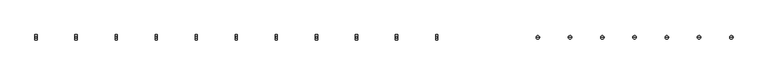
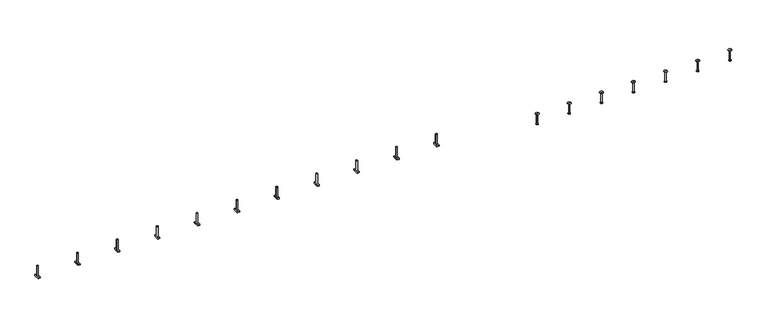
"""IFC4 building model written with IfcOpenShell, lengths in millimetres: fastener geometry, JTA-W JORDAHL® AnchorChannels : JTA-W L=6000 mm."""

from ifc_helpers import new_model, si_unit, frame, origin, place, context, project, spatial, polyline, circle_curve, source, transform, mapped, element, save
from ifc_brep_helpers import plane_surface, cylinder_surface, revolved_surface, advanced_brep


def fastener_219282b4(model_context):
    return source(origin(), model_context, "Body", "AdvancedBrep", [
        advanced_brep(
        [(3470.3421053, -20.7, -4.0), (3470.3421053, -20.7, -14.0), (3470.3421053, 20.7, -14.0), (3470.3421053, 20.7, -4.0), (3453.3421053, -20.7, -4.0), (3453.3421053, 20.7, -4.0), (3453.3421053, 20.7, -14.0), (3453.3421053, -20.7, -14.0), (3467.8421053, 0.0, -4.0), (3455.8421053, 0.0, -4.0), (3455.8421053, 0.0, 76.0), (3467.8421053, 0.0, 76.0)],
        [
            (0, 1),
            (1, 2),
            (2, 3),
            (3, 0),
            (4, 5),
            (5, 6),
            (6, 7),
            (7, 4),
            (3, 5),
            (4, 0),
            (8, 9, circle_curve(frame((3461.8421053, 0.0, -4.0), z_axis=(0.0, 0.0, -1.0), x_axis=(1.0, 0.0, 0.0)), 6.0)),
            (9, 8, circle_curve(frame((3461.8421053, 0.0, -4.0), z_axis=(0.0, 0.0, -1.0), x_axis=(1.0, 0.0, 0.0)), 6.0)),
            (2, 6),
            (1, 7),
            (10, 11, circle_curve(frame((3461.8421053, 0.0, 76.0), z_axis=(0.0, 0.0, 1.0), x_axis=(1.0, 0.0, 0.0)), 6.0)),
            (11, 10, circle_curve(frame((3461.8421053, 0.0, 76.0), z_axis=(0.0, 0.0, 1.0), x_axis=(1.0, 0.0, 0.0)), 6.0)),
            (11, 8),
            (9, 10),
        ],
        [
            plane_surface(frame((3470.3421053, 20.7, -4.0), z_axis=(1.0, 0.0, 0.0), x_axis=(0.0, 1.0, 0.0))),
            plane_surface(frame((3453.3421053, 20.7, -4.0), z_axis=(-1.0, 0.0, 0.0), x_axis=(0.0, -1.0, 0.0))),
            plane_surface(frame((3470.3421053, -20.7, -4.0), z_axis=(0.0, 0.0, 1.0), x_axis=(-1.0, 0.0, 0.0))),
            plane_surface(frame((3470.3421053, 20.7, -4.0), z_axis=(0.0, 1.0, 0.0), x_axis=(-1.0, 0.0, 0.0))),
            plane_surface(frame((3470.3421053, 20.7, -14.0), z_axis=(0.0, 0.0, -1.0), x_axis=(-1.0, 0.0, 0.0))),
            plane_surface(frame((3470.3421053, -20.7, -14.0), z_axis=(0.0, -1.0, 0.0), x_axis=(-1.0, 0.0, 0.0))),
            plane_surface(frame((3467.8421053, 0.0, 76.0), z_axis=(0.0, 0.0, 1.0), x_axis=(0.0, -1.0, 0.0))),
            cylinder_surface(frame((3461.8421053, 0.0, -4.0), z_axis=(0.0, 0.0, 1.0), x_axis=(1.0, 0.0, 0.0)), 6.0),
        ],
        [
            (0, [[1, 2, 3, 4]]),
            (1, [[5, 6, 7, 8]]),
            (2, [[9, -5, 10, -4], [11, 12]]),
            (3, [[13, -6, -9, -3]]),
            (4, [[14, -7, -13, -2]]),
            (5, [[-10, -8, -14, -1]]),
            (6, [[15, 16]]),
            (7, [[17, -12, 18, -16]]),
            (7, [[-18, -11, -17, -15]]),
        ],
    ),
        advanced_brep(
        [(3162.4473684, -20.7, -4.0), (3162.4473684, -20.7, -14.0), (3162.4473684, 20.7, -14.0), (3162.4473684, 20.7, -4.0), (3145.4473684, -20.7, -4.0), (3145.4473684, 20.7, -4.0), (3145.4473684, 20.7, -14.0), (3145.4473684, -20.7, -14.0), (3159.9473684, 0.0, -4.0), (3147.9473684, 0.0, -4.0), (3147.9473684, 0.0, 76.0), (3159.9473684, 0.0, 76.0)],
        [
            (0, 1),
            (1, 2),
            (2, 3),
            (3, 0),
            (4, 5),
            (5, 6),
            (6, 7),
            (7, 4),
            (3, 5),
            (4, 0),
            (8, 9, circle_curve(frame((3153.9473684, 0.0, -4.0), z_axis=(0.0, 0.0, -1.0), x_axis=(1.0, 0.0, 0.0)), 6.0)),
            (9, 8, circle_curve(frame((3153.9473684, 0.0, -4.0), z_axis=(0.0, 0.0, -1.0), x_axis=(1.0, 0.0, 0.0)), 6.0)),
            (2, 6),
            (1, 7),
            (10, 11, circle_curve(frame((3153.9473684, 0.0, 76.0), z_axis=(0.0, 0.0, 1.0), x_axis=(1.0, 0.0, 0.0)), 6.0)),
            (11, 10, circle_curve(frame((3153.9473684, 0.0, 76.0), z_axis=(0.0, 0.0, 1.0), x_axis=(1.0, 0.0, 0.0)), 6.0)),
            (11, 8),
            (9, 10),
        ],
        [
            plane_surface(frame((3162.4473684, 20.7, -4.0), z_axis=(1.0, 0.0, 0.0), x_axis=(0.0, 1.0, 0.0))),
            plane_surface(frame((3145.4473684, 20.7, -4.0), z_axis=(-1.0, 0.0, 0.0), x_axis=(0.0, -1.0, 0.0))),
            plane_surface(frame((3162.4473684, -20.7, -4.0), z_axis=(0.0, 0.0, 1.0), x_axis=(-1.0, 0.0, 0.0))),
            plane_surface(frame((3162.4473684, 20.7, -4.0), z_axis=(0.0, 1.0, 0.0), x_axis=(-1.0, 0.0, 0.0))),
            plane_surface(frame((3162.4473684, 20.7, -14.0), z_axis=(0.0, 0.0, -1.0), x_axis=(-1.0, 0.0, 0.0))),
            plane_surface(frame((3162.4473684, -20.7, -14.0), z_axis=(0.0, -1.0, 0.0), x_axis=(-1.0, 0.0, 0.0))),
            plane_surface(frame((3159.9473684, 0.0, 76.0), z_axis=(0.0, 0.0, 1.0), x_axis=(0.0, -1.0, 0.0))),
            cylinder_surface(frame((3153.9473684, 0.0, -4.0), z_axis=(0.0, 0.0, 1.0), x_axis=(1.0, 0.0, 0.0)), 6.0),
        ],
        [
            (0, [[1, 2, 3, 4]]),
            (1, [[5, 6, 7, 8]]),
            (2, [[9, -5, 10, -4], [11, 12]]),
            (3, [[13, -6, -9, -3]]),
            (4, [[14, -7, -13, -2]]),
            (5, [[-10, -8, -14, -1]]),
            (6, [[15, 16]]),
            (7, [[17, -12, 18, -16]]),
            (7, [[-18, -11, -17, -15]]),
        ],
    ),
        advanced_brep(
        [(2854.5526316, -20.7, -4.0), (2854.5526316, -20.7, -14.0), (2854.5526316, 20.7, -14.0), (2854.5526316, 20.7, -4.0), (2837.5526316, -20.7, -4.0), (2837.5526316, 20.7, -4.0), (2837.5526316, 20.7, -14.0), (2837.5526316, -20.7, -14.0), (2852.0526316, 0.0, -4.0), (2840.0526316, 0.0, -4.0), (2840.0526316, 0.0, 76.0), (2852.0526316, 0.0, 76.0)],
        [
            (0, 1),
            (1, 2),
            (2, 3),
            (3, 0),
            (4, 5),
            (5, 6),
            (6, 7),
            (7, 4),
            (3, 5),
            (4, 0),
            (8, 9, circle_curve(frame((2846.0526316, 0.0, -4.0), z_axis=(0.0, 0.0, -1.0), x_axis=(1.0, 0.0, 0.0)), 6.0)),
            (9, 8, circle_curve(frame((2846.0526316, 0.0, -4.0), z_axis=(0.0, 0.0, -1.0), x_axis=(1.0, 0.0, 0.0)), 6.0)),
            (2, 6),
            (1, 7),
            (10, 11, circle_curve(frame((2846.0526316, 0.0, 76.0), z_axis=(0.0, 0.0, 1.0), x_axis=(1.0, 0.0, 0.0)), 6.0)),
            (11, 10, circle_curve(frame((2846.0526316, 0.0, 76.0), z_axis=(0.0, 0.0, 1.0), x_axis=(1.0, 0.0, 0.0)), 6.0)),
            (11, 8),
            (9, 10),
        ],
        [
            plane_surface(frame((2854.5526316, 20.7, -4.0), z_axis=(1.0, 0.0, 0.0), x_axis=(0.0, 1.0, 0.0))),
            plane_surface(frame((2837.5526316, 20.7, -4.0), z_axis=(-1.0, 0.0, 0.0), x_axis=(0.0, -1.0, 0.0))),
            plane_surface(frame((2854.5526316, -20.7, -4.0), z_axis=(0.0, 0.0, 1.0), x_axis=(-1.0, 0.0, 0.0))),
            plane_surface(frame((2854.5526316, 20.7, -4.0), z_axis=(0.0, 1.0, 0.0), x_axis=(-1.0, 0.0, 0.0))),
            plane_surface(frame((2854.5526316, 20.7, -14.0), z_axis=(0.0, 0.0, -1.0), x_axis=(-1.0, 0.0, 0.0))),
            plane_surface(frame((2854.5526316, -20.7, -14.0), z_axis=(0.0, -1.0, 0.0), x_axis=(-1.0, 0.0, 0.0))),
            plane_surface(frame((2852.0526316, 0.0, 76.0), z_axis=(0.0, 0.0, 1.0), x_axis=(0.0, -1.0, 0.0))),
            cylinder_surface(frame((2846.0526316, 0.0, -4.0), z_axis=(0.0, 0.0, 1.0), x_axis=(1.0, 0.0, 0.0)), 6.0),
        ],
        [
            (0, [[1, 2, 3, 4]]),
            (1, [[5, 6, 7, 8]]),
            (2, [[9, -5, 10, -4], [11, 12]]),
            (3, [[13, -6, -9, -3]]),
            (4, [[14, -7, -13, -2]]),
            (5, [[-10, -8, -14, -1]]),
            (6, [[15, 16]]),
            (7, [[17, -12, 18, -16]]),
            (7, [[-18, -11, -17, -15]]),
        ],
    ),
        advanced_brep(
        [(2546.6578947, -20.7, -4.0), (2546.6578947, -20.7, -14.0), (2546.6578947, 20.7, -14.0), (2546.6578947, 20.7, -4.0), (2529.6578947, -20.7, -4.0), (2529.6578947, 20.7, -4.0), (2529.6578947, 20.7, -14.0), (2529.6578947, -20.7, -14.0), (2544.1578947, 0.0, -4.0), (2532.1578947, 0.0, -4.0), (2532.1578947, 0.0, 76.0), (2544.1578947, 0.0, 76.0)],
        [
            (0, 1),
            (1, 2),
            (2, 3),
            (3, 0),
            (4, 5),
            (5, 6),
            (6, 7),
            (7, 4),
            (3, 5),
            (4, 0),
            (8, 9, circle_curve(frame((2538.1578947, 0.0, -4.0), z_axis=(0.0, 0.0, -1.0), x_axis=(1.0, 0.0, 0.0)), 6.0)),
            (9, 8, circle_curve(frame((2538.1578947, 0.0, -4.0), z_axis=(0.0, 0.0, -1.0), x_axis=(1.0, 0.0, 0.0)), 6.0)),
            (2, 6),
            (1, 7),
            (10, 11, circle_curve(frame((2538.1578947, 0.0, 76.0), z_axis=(0.0, 0.0, 1.0), x_axis=(1.0, 0.0, 0.0)), 6.0)),
            (11, 10, circle_curve(frame((2538.1578947, 0.0, 76.0), z_axis=(0.0, 0.0, 1.0), x_axis=(1.0, 0.0, 0.0)), 6.0)),
            (11, 8),
            (9, 10),
        ],
        [
            plane_surface(frame((2546.6578947, 20.7, -4.0), z_axis=(1.0, 0.0, 0.0), x_axis=(0.0, 1.0, 0.0))),
            plane_surface(frame((2529.6578947, 20.7, -4.0), z_axis=(-1.0, 0.0, 0.0), x_axis=(0.0, -1.0, 0.0))),
            plane_surface(frame((2546.6578947, -20.7, -4.0), z_axis=(0.0, 0.0, 1.0), x_axis=(-1.0, 0.0, 0.0))),
            plane_surface(frame((2546.6578947, 20.7, -4.0), z_axis=(0.0, 1.0, 0.0), x_axis=(-1.0, 0.0, 0.0))),
            plane_surface(frame((2546.6578947, 20.7, -14.0), z_axis=(0.0, 0.0, -1.0), x_axis=(-1.0, 0.0, 0.0))),
            plane_surface(frame((2546.6578947, -20.7, -14.0), z_axis=(0.0, -1.0, 0.0), x_axis=(-1.0, 0.0, 0.0))),
            plane_surface(frame((2544.1578947, 0.0, 76.0), z_axis=(0.0, 0.0, 1.0), x_axis=(0.0, -1.0, 0.0))),
            cylinder_surface(frame((2538.1578947, 0.0, -4.0), z_axis=(0.0, 0.0, 1.0), x_axis=(1.0, 0.0, 0.0)), 6.0),
        ],
        [
            (0, [[1, 2, 3, 4]]),
            (1, [[5, 6, 7, 8]]),
            (2, [[9, -5, 10, -4], [11, 12]]),
            (3, [[13, -6, -9, -3]]),
            (4, [[14, -7, -13, -2]]),
            (5, [[-10, -8, -14, -1]]),
            (6, [[15, 16]]),
            (7, [[17, -12, 18, -16]]),
            (7, [[-18, -11, -17, -15]]),
        ],
    ),
        advanced_brep(
        [(2238.7631579, -20.7, -4.0), (2238.7631579, -20.7, -14.0), (2238.7631579, 20.7, -14.0), (2238.7631579, 20.7, -4.0), (2221.7631579, -20.7, -4.0), (2221.7631579, 20.7, -4.0), (2221.7631579, 20.7, -14.0), (2221.7631579, -20.7, -14.0), (2236.2631579, 0.0, -4.0), (2224.2631579, 0.0, -4.0), (2224.2631579, 0.0, 76.0), (2236.2631579, 0.0, 76.0)],
        [
            (0, 1),
            (1, 2),
            (2, 3),
            (3, 0),
            (4, 5),
            (5, 6),
            (6, 7),
            (7, 4),
            (3, 5),
            (4, 0),
            (8, 9, circle_curve(frame((2230.2631579, 0.0, -4.0), z_axis=(0.0, 0.0, -1.0), x_axis=(1.0, 0.0, 0.0)), 6.0)),
            (9, 8, circle_curve(frame((2230.2631579, 0.0, -4.0), z_axis=(0.0, 0.0, -1.0), x_axis=(1.0, 0.0, 0.0)), 6.0)),
            (2, 6),
            (1, 7),
            (10, 11, circle_curve(frame((2230.2631579, 0.0, 76.0), z_axis=(0.0, 0.0, 1.0), x_axis=(1.0, 0.0, 0.0)), 6.0)),
            (11, 10, circle_curve(frame((2230.2631579, 0.0, 76.0), z_axis=(0.0, 0.0, 1.0), x_axis=(1.0, 0.0, 0.0)), 6.0)),
            (11, 8),
            (9, 10),
        ],
        [
            plane_surface(frame((2238.7631579, 20.7, -4.0), z_axis=(1.0, 0.0, 0.0), x_axis=(0.0, 1.0, 0.0))),
            plane_surface(frame((2221.7631579, 20.7, -4.0), z_axis=(-1.0, 0.0, 0.0), x_axis=(0.0, -1.0, 0.0))),
            plane_surface(frame((2238.7631579, -20.7, -4.0), z_axis=(0.0, 0.0, 1.0), x_axis=(-1.0, 0.0, 0.0))),
            plane_surface(frame((2238.7631579, 20.7, -4.0), z_axis=(0.0, 1.0, 0.0), x_axis=(-1.0, 0.0, 0.0))),
            plane_surface(frame((2238.7631579, 20.7, -14.0), z_axis=(0.0, 0.0, -1.0), x_axis=(-1.0, 0.0, 0.0))),
            plane_surface(frame((2238.7631579, -20.7, -14.0), z_axis=(0.0, -1.0, 0.0), x_axis=(-1.0, 0.0, 0.0))),
            plane_surface(frame((2236.2631579, 0.0, 76.0), z_axis=(0.0, 0.0, 1.0), x_axis=(0.0, -1.0, 0.0))),
            cylinder_surface(frame((2230.2631579, 0.0, -4.0), z_axis=(0.0, 0.0, 1.0), x_axis=(1.0, 0.0, 0.0)), 6.0),
        ],
        [
            (0, [[1, 2, 3, 4]]),
            (1, [[5, 6, 7, 8]]),
            (2, [[9, -5, 10, -4], [11, 12]]),
            (3, [[13, -6, -9, -3]]),
            (4, [[14, -7, -13, -2]]),
            (5, [[-10, -8, -14, -1]]),
            (6, [[15, 16]]),
            (7, [[17, -12, 18, -16]]),
            (7, [[-18, -11, -17, -15]]),
        ],
    ),
        advanced_brep(
        [(1930.8684211, -20.7, -4.0), (1930.8684211, -20.7, -14.0), (1930.8684211, 20.7, -14.0), (1930.8684211, 20.7, -4.0), (1913.8684211, -20.7, -4.0), (1913.8684211, 20.7, -4.0), (1913.8684211, 20.7, -14.0), (1913.8684211, -20.7, -14.0), (1928.3684211, 0.0, -4.0), (1916.3684211, 0.0, -4.0), (1916.3684211, 0.0, 76.0), (1928.3684211, 0.0, 76.0)],
        [
            (0, 1),
            (1, 2),
            (2, 3),
            (3, 0),
            (4, 5),
            (5, 6),
            (6, 7),
            (7, 4),
            (3, 5),
            (4, 0),
            (8, 9, circle_curve(frame((1922.3684211, 0.0, -4.0), z_axis=(0.0, 0.0, -1.0), x_axis=(1.0, 0.0, 0.0)), 6.0)),
            (9, 8, circle_curve(frame((1922.3684211, 0.0, -4.0), z_axis=(0.0, 0.0, -1.0), x_axis=(1.0, 0.0, 0.0)), 6.0)),
            (2, 6),
            (1, 7),
            (10, 11, circle_curve(frame((1922.3684211, 0.0, 76.0), z_axis=(0.0, 0.0, 1.0), x_axis=(1.0, 0.0, 0.0)), 6.0)),
            (11, 10, circle_curve(frame((1922.3684211, 0.0, 76.0), z_axis=(0.0, 0.0, 1.0), x_axis=(1.0, 0.0, 0.0)), 6.0)),
            (11, 8),
            (9, 10),
        ],
        [
            plane_surface(frame((1930.8684211, 20.7, -4.0), z_axis=(1.0, 0.0, 0.0), x_axis=(0.0, 1.0, 0.0))),
            plane_surface(frame((1913.8684211, 20.7, -4.0), z_axis=(-1.0, 0.0, 0.0), x_axis=(0.0, -1.0, 0.0))),
            plane_surface(frame((1930.8684211, -20.7, -4.0), z_axis=(0.0, 0.0, 1.0), x_axis=(-1.0, 0.0, 0.0))),
            plane_surface(frame((1930.8684211, 20.7, -4.0), z_axis=(0.0, 1.0, 0.0), x_axis=(-1.0, 0.0, 0.0))),
            plane_surface(frame((1930.8684211, 20.7, -14.0), z_axis=(0.0, 0.0, -1.0), x_axis=(-1.0, 0.0, 0.0))),
            plane_surface(frame((1930.8684211, -20.7, -14.0), z_axis=(0.0, -1.0, 0.0), x_axis=(-1.0, 0.0, 0.0))),
            plane_surface(frame((1928.3684211, 0.0, 76.0), z_axis=(0.0, 0.0, 1.0), x_axis=(0.0, -1.0, 0.0))),
            cylinder_surface(frame((1922.3684211, 0.0, -4.0), z_axis=(0.0, 0.0, 1.0), x_axis=(1.0, 0.0, 0.0)), 6.0),
        ],
        [
            (0, [[1, 2, 3, 4]]),
            (1, [[5, 6, 7, 8]]),
            (2, [[9, -5, 10, -4], [11, 12]]),
            (3, [[13, -6, -9, -3]]),
            (4, [[14, -7, -13, -2]]),
            (5, [[-10, -8, -14, -1]]),
            (6, [[15, 16]]),
            (7, [[17, -12, 18, -16]]),
            (7, [[-18, -11, -17, -15]]),
        ],
    ),
        advanced_brep(
        [(1622.9736842, -20.7, -4.0), (1622.9736842, -20.7, -14.0), (1622.9736842, 20.7, -14.0), (1622.9736842, 20.7, -4.0), (1605.9736842, -20.7, -4.0), (1605.9736842, 20.7, -4.0), (1605.9736842, 20.7, -14.0), (1605.9736842, -20.7, -14.0), (1620.4736842, 0.0, -4.0), (1608.4736842, 0.0, -4.0), (1608.4736842, 0.0, 76.0), (1620.4736842, 0.0, 76.0)],
        [
            (0, 1),
            (1, 2),
            (2, 3),
            (3, 0),
            (4, 5),
            (5, 6),
            (6, 7),
            (7, 4),
            (3, 5),
            (4, 0),
            (8, 9, circle_curve(frame((1614.4736842, 0.0, -4.0), z_axis=(0.0, 0.0, -1.0), x_axis=(1.0, 0.0, 0.0)), 6.0)),
            (9, 8, circle_curve(frame((1614.4736842, 0.0, -4.0), z_axis=(0.0, 0.0, -1.0), x_axis=(1.0, 0.0, 0.0)), 6.0)),
            (2, 6),
            (1, 7),
            (10, 11, circle_curve(frame((1614.4736842, 0.0, 76.0), z_axis=(0.0, 0.0, 1.0), x_axis=(1.0, 0.0, 0.0)), 6.0)),
            (11, 10, circle_curve(frame((1614.4736842, 0.0, 76.0), z_axis=(0.0, 0.0, 1.0), x_axis=(1.0, 0.0, 0.0)), 6.0)),
            (11, 8),
            (9, 10),
        ],
        [
            plane_surface(frame((1622.9736842, 20.7, -4.0), z_axis=(1.0, 0.0, 0.0), x_axis=(0.0, 1.0, 0.0))),
            plane_surface(frame((1605.9736842, 20.7, -4.0), z_axis=(-1.0, 0.0, 0.0), x_axis=(0.0, -1.0, 0.0))),
            plane_surface(frame((1622.9736842, -20.7, -4.0), z_axis=(0.0, 0.0, 1.0), x_axis=(-1.0, 0.0, 0.0))),
            plane_surface(frame((1622.9736842, 20.7, -4.0), z_axis=(0.0, 1.0, 0.0), x_axis=(-1.0, 0.0, 0.0))),
            plane_surface(frame((1622.9736842, 20.7, -14.0), z_axis=(0.0, 0.0, -1.0), x_axis=(-1.0, 0.0, 0.0))),
            plane_surface(frame((1622.9736842, -20.7, -14.0), z_axis=(0.0, -1.0, 0.0), x_axis=(-1.0, 0.0, 0.0))),
            plane_surface(frame((1620.4736842, 0.0, 76.0), z_axis=(0.0, 0.0, 1.0), x_axis=(0.0, -1.0, 0.0))),
            cylinder_surface(frame((1614.4736842, 0.0, -4.0), z_axis=(0.0, 0.0, 1.0), x_axis=(1.0, 0.0, 0.0)), 6.0),
        ],
        [
            (0, [[1, 2, 3, 4]]),
            (1, [[5, 6, 7, 8]]),
            (2, [[9, -5, 10, -4], [11, 12]]),
            (3, [[13, -6, -9, -3]]),
            (4, [[14, -7, -13, -2]]),
            (5, [[-10, -8, -14, -1]]),
            (6, [[15, 16]]),
            (7, [[17, -12, 18, -16]]),
            (7, [[-18, -11, -17, -15]]),
        ],
    ),
        advanced_brep(
        [(1315.0789474, -20.7, -4.0), (1315.0789474, -20.7, -14.0), (1315.0789474, 20.7, -14.0), (1315.0789474, 20.7, -4.0), (1298.0789474, -20.7, -4.0), (1298.0789474, 20.7, -4.0), (1298.0789474, 20.7, -14.0), (1298.0789474, -20.7, -14.0), (1312.5789474, 0.0, -4.0), (1300.5789474, 0.0, -4.0), (1300.5789474, 0.0, 76.0), (1312.5789474, 0.0, 76.0)],
        [
            (0, 1),
            (1, 2),
            (2, 3),
            (3, 0),
            (4, 5),
            (5, 6),
            (6, 7),
            (7, 4),
            (3, 5),
            (4, 0),
            (8, 9, circle_curve(frame((1306.5789474, 0.0, -4.0), z_axis=(0.0, 0.0, -1.0), x_axis=(1.0, 0.0, 0.0)), 6.0)),
            (9, 8, circle_curve(frame((1306.5789474, 0.0, -4.0), z_axis=(0.0, 0.0, -1.0), x_axis=(1.0, 0.0, 0.0)), 6.0)),
            (2, 6),
            (1, 7),
            (10, 11, circle_curve(frame((1306.5789474, 0.0, 76.0), z_axis=(0.0, 0.0, 1.0), x_axis=(1.0, 0.0, 0.0)), 6.0)),
            (11, 10, circle_curve(frame((1306.5789474, 0.0, 76.0), z_axis=(0.0, 0.0, 1.0), x_axis=(1.0, 0.0, 0.0)), 6.0)),
            (11, 8),
            (9, 10),
        ],
        [
            plane_surface(frame((1315.0789474, 20.7, -4.0), z_axis=(1.0, 0.0, 0.0), x_axis=(0.0, 1.0, 0.0))),
            plane_surface(frame((1298.0789474, 20.7, -4.0), z_axis=(-1.0, 0.0, 0.0), x_axis=(0.0, -1.0, 0.0))),
            plane_surface(frame((1315.0789474, -20.7, -4.0), z_axis=(0.0, 0.0, 1.0), x_axis=(-1.0, 0.0, 0.0))),
            plane_surface(frame((1315.0789474, 20.7, -4.0), z_axis=(0.0, 1.0, 0.0), x_axis=(-1.0, 0.0, 0.0))),
            plane_surface(frame((1315.0789474, 20.7, -14.0), z_axis=(0.0, 0.0, -1.0), x_axis=(-1.0, 0.0, 0.0))),
            plane_surface(frame((1315.0789474, -20.7, -14.0), z_axis=(0.0, -1.0, 0.0), x_axis=(-1.0, 0.0, 0.0))),
            plane_surface(frame((1312.5789474, 0.0, 76.0), z_axis=(0.0, 0.0, 1.0), x_axis=(0.0, -1.0, 0.0))),
            cylinder_surface(frame((1306.5789474, 0.0, -4.0), z_axis=(0.0, 0.0, 1.0), x_axis=(1.0, 0.0, 0.0)), 6.0),
        ],
        [
            (0, [[1, 2, 3, 4]]),
            (1, [[5, 6, 7, 8]]),
            (2, [[9, -5, 10, -4], [11, 12]]),
            (3, [[13, -6, -9, -3]]),
            (4, [[14, -7, -13, -2]]),
            (5, [[-10, -8, -14, -1]]),
            (6, [[15, 16]]),
            (7, [[17, -12, 18, -16]]),
            (7, [[-18, -11, -17, -15]]),
        ],
    ),
        advanced_brep(
        [(1007.1842105, -20.7, -4.0), (1007.1842105, -20.7, -14.0), (1007.1842105, 20.7, -14.0), (1007.1842105, 20.7, -4.0), (990.1842105, -20.7, -4.0), (990.1842105, 20.7, -4.0), (990.1842105, 20.7, -14.0), (990.1842105, -20.7, -14.0), (1004.6842105, 0.0, -4.0), (992.6842105, 0.0, -4.0), (992.6842105, 0.0, 76.0), (1004.6842105, 0.0, 76.0)],
        [
            (0, 1),
            (1, 2),
            (2, 3),
            (3, 0),
            (4, 5),
            (5, 6),
            (6, 7),
            (7, 4),
            (3, 5),
            (4, 0),
            (8, 9, circle_curve(frame((998.6842105, 0.0, -4.0), z_axis=(0.0, 0.0, -1.0), x_axis=(1.0, 0.0, 0.0)), 6.0)),
            (9, 8, circle_curve(frame((998.6842105, 0.0, -4.0), z_axis=(0.0, 0.0, -1.0), x_axis=(1.0, 0.0, 0.0)), 6.0)),
            (2, 6),
            (1, 7),
            (10, 11, circle_curve(frame((998.6842105, 0.0, 76.0), z_axis=(0.0, 0.0, 1.0), x_axis=(1.0, 0.0, 0.0)), 6.0)),
            (11, 10, circle_curve(frame((998.6842105, 0.0, 76.0), z_axis=(0.0, 0.0, 1.0), x_axis=(1.0, 0.0, 0.0)), 6.0)),
            (11, 8),
            (9, 10),
        ],
        [
            plane_surface(frame((1007.1842105, 20.7, -4.0), z_axis=(1.0, 0.0, 0.0), x_axis=(0.0, 1.0, 0.0))),
            plane_surface(frame((990.1842105, 20.7, -4.0), z_axis=(-1.0, 0.0, 0.0), x_axis=(0.0, -1.0, 0.0))),
            plane_surface(frame((1007.1842105, -20.7, -4.0), z_axis=(0.0, 0.0, 1.0), x_axis=(-1.0, 0.0, 0.0))),
            plane_surface(frame((1007.1842105, 20.7, -4.0), z_axis=(0.0, 1.0, 0.0), x_axis=(-1.0, 0.0, 0.0))),
            plane_surface(frame((1007.1842105, 20.7, -14.0), z_axis=(0.0, 0.0, -1.0), x_axis=(-1.0, 0.0, 0.0))),
            plane_surface(frame((1007.1842105, -20.7, -14.0), z_axis=(0.0, -1.0, 0.0), x_axis=(-1.0, 0.0, 0.0))),
            plane_surface(frame((1004.6842105, 0.0, 76.0), z_axis=(0.0, 0.0, 1.0), x_axis=(0.0, -1.0, 0.0))),
            cylinder_surface(frame((998.6842105, 0.0, -4.0), z_axis=(0.0, 0.0, 1.0), x_axis=(1.0, 0.0, 0.0)), 6.0),
        ],
        [
            (0, [[1, 2, 3, 4]]),
            (1, [[5, 6, 7, 8]]),
            (2, [[9, -5, 10, -4], [11, 12]]),
            (3, [[13, -6, -9, -3]]),
            (4, [[14, -7, -13, -2]]),
            (5, [[-10, -8, -14, -1]]),
            (6, [[15, 16]]),
            (7, [[17, -12, 18, -16]]),
            (7, [[-18, -11, -17, -15]]),
        ],
    ),
        advanced_brep(
        [(699.2894737, -20.7, -4.0), (699.2894737, -20.7, -14.0), (699.2894737, 20.7, -14.0), (699.2894737, 20.7, -4.0), (682.2894737, -20.7, -4.0), (682.2894737, 20.7, -4.0), (682.2894737, 20.7, -14.0), (682.2894737, -20.7, -14.0), (696.7894737, 0.0, -4.0), (684.7894737, 0.0, -4.0), (684.7894737, 0.0, 76.0), (696.7894737, 0.0, 76.0)],
        [
            (0, 1),
            (1, 2),
            (2, 3),
            (3, 0),
            (4, 5),
            (5, 6),
            (6, 7),
            (7, 4),
            (3, 5),
            (4, 0),
            (8, 9, circle_curve(frame((690.7894737, 0.0, -4.0), z_axis=(0.0, 0.0, -1.0), x_axis=(1.0, 0.0, 0.0)), 6.0)),
            (9, 8, circle_curve(frame((690.7894737, 0.0, -4.0), z_axis=(0.0, 0.0, -1.0), x_axis=(1.0, 0.0, 0.0)), 6.0)),
            (2, 6),
            (1, 7),
            (10, 11, circle_curve(frame((690.7894737, 0.0, 76.0), z_axis=(0.0, 0.0, 1.0), x_axis=(1.0, 0.0, 0.0)), 6.0)),
            (11, 10, circle_curve(frame((690.7894737, 0.0, 76.0), z_axis=(0.0, 0.0, 1.0), x_axis=(1.0, 0.0, 0.0)), 6.0)),
            (11, 8),
            (9, 10),
        ],
        [
            plane_surface(frame((699.2894737, 20.7, -4.0), z_axis=(1.0, 0.0, 0.0), x_axis=(0.0, 1.0, 0.0))),
            plane_surface(frame((682.2894737, 20.7, -4.0), z_axis=(-1.0, 0.0, 0.0), x_axis=(0.0, -1.0, 0.0))),
            plane_surface(frame((699.2894737, -20.7, -4.0), z_axis=(0.0, 0.0, 1.0), x_axis=(-1.0, 0.0, 0.0))),
            plane_surface(frame((699.2894737, 20.7, -4.0), z_axis=(0.0, 1.0, 0.0), x_axis=(-1.0, 0.0, 0.0))),
            plane_surface(frame((699.2894737, 20.7, -14.0), z_axis=(0.0, 0.0, -1.0), x_axis=(-1.0, 0.0, 0.0))),
            plane_surface(frame((699.2894737, -20.7, -14.0), z_axis=(0.0, -1.0, 0.0), x_axis=(-1.0, 0.0, 0.0))),
            plane_surface(frame((696.7894737, 0.0, 76.0), z_axis=(0.0, 0.0, 1.0), x_axis=(0.0, -1.0, 0.0))),
            cylinder_surface(frame((690.7894737, 0.0, -4.0), z_axis=(0.0, 0.0, 1.0), x_axis=(1.0, 0.0, 0.0)), 6.0),
        ],
        [
            (0, [[1, 2, 3, 4]]),
            (1, [[5, 6, 7, 8]]),
            (2, [[9, -5, 10, -4], [11, 12]]),
            (3, [[13, -6, -9, -3]]),
            (4, [[14, -7, -13, -2]]),
            (5, [[-10, -8, -14, -1]]),
            (6, [[15, 16]]),
            (7, [[17, -12, 18, -16]]),
            (7, [[-18, -11, -17, -15]]),
        ],
    ),
        advanced_brep(
        [(391.3947368, -20.7, -4.0), (391.3947368, -20.7, -14.0), (391.3947368, 20.7, -14.0), (391.3947368, 20.7, -4.0), (374.3947368, -20.7, -4.0), (374.3947368, 20.7, -4.0), (374.3947368, 20.7, -14.0), (374.3947368, -20.7, -14.0), (388.8947368, 0.0, -4.0), (376.8947368, 0.0, -4.0), (376.8947368, 0.0, 76.0), (388.8947368, 0.0, 76.0)],
        [
            (0, 1),
            (1, 2),
            (2, 3),
            (3, 0),
            (4, 5),
            (5, 6),
            (6, 7),
            (7, 4),
            (3, 5),
            (4, 0),
            (8, 9, circle_curve(frame((382.8947368, 0.0, -4.0), z_axis=(0.0, 0.0, -1.0), x_axis=(1.0, 0.0, 0.0)), 6.0)),
            (9, 8, circle_curve(frame((382.8947368, 0.0, -4.0), z_axis=(0.0, 0.0, -1.0), x_axis=(1.0, 0.0, 0.0)), 6.0)),
            (2, 6),
            (1, 7),
            (10, 11, circle_curve(frame((382.8947368, 0.0, 76.0), z_axis=(0.0, 0.0, 1.0), x_axis=(1.0, 0.0, 0.0)), 6.0)),
            (11, 10, circle_curve(frame((382.8947368, 0.0, 76.0), z_axis=(0.0, 0.0, 1.0), x_axis=(1.0, 0.0, 0.0)), 6.0)),
            (11, 8),
            (9, 10),
        ],
        [
            plane_surface(frame((391.3947368, 20.7, -4.0), z_axis=(1.0, 0.0, 0.0), x_axis=(0.0, 1.0, 0.0))),
            plane_surface(frame((374.3947368, 20.7, -4.0), z_axis=(-1.0, 0.0, 0.0), x_axis=(0.0, -1.0, 0.0))),
            plane_surface(frame((391.3947368, -20.7, -4.0), z_axis=(0.0, 0.0, 1.0), x_axis=(-1.0, 0.0, 0.0))),
            plane_surface(frame((391.3947368, 20.7, -4.0), z_axis=(0.0, 1.0, 0.0), x_axis=(-1.0, 0.0, 0.0))),
            plane_surface(frame((391.3947368, 20.7, -14.0), z_axis=(0.0, 0.0, -1.0), x_axis=(-1.0, 0.0, 0.0))),
            plane_surface(frame((391.3947368, -20.7, -14.0), z_axis=(0.0, -1.0, 0.0), x_axis=(-1.0, 0.0, 0.0))),
            plane_surface(frame((388.8947368, 0.0, 76.0), z_axis=(0.0, 0.0, 1.0), x_axis=(0.0, -1.0, 0.0))),
            cylinder_surface(frame((382.8947368, 0.0, -4.0), z_axis=(0.0, 0.0, 1.0), x_axis=(1.0, 0.0, 0.0)), 6.0),
        ],
        [
            (0, [[1, 2, 3, 4]]),
            (1, [[5, 6, 7, 8]]),
            (2, [[9, -5, 10, -4], [11, 12]]),
            (3, [[13, -6, -9, -3]]),
            (4, [[14, -7, -13, -2]]),
            (5, [[-10, -8, -14, -1]]),
            (6, [[15, 16]]),
            (7, [[17, -12, 18, -16]]),
            (7, [[-18, -11, -17, -15]]),
        ],
    ),
        advanced_brep(
        [(5727.0833333, 0.0, -30.0), (5713.5833333, 0.0, -30.0), (5740.5833333, 0.0, -30.0), (5718.5833333, 0.0, -115.0), (5727.0833333, 0.0, -115.0), (5735.5833333, 0.0, -115.0), (5718.5833333, 0.0, -113.0), (5735.5833333, 0.0, -113.0), (5722.5833333, 0.0, -110.6905989), (5731.5833333, 0.0, -110.6905989), (5722.5833333, 0.0, -32.5), (5731.5833333, 0.0, -32.5)],
        [
            (0, 1),
            (1, 2, circle_curve(frame((5727.0833333, 0.0, -30.0), z_axis=(0.0, 0.0, 1.0), x_axis=(1.0, 0.0, 0.0)), 13.5)),
            (2, 0),
            (2, 1, circle_curve(frame((5727.0833333, 0.0, -30.0), z_axis=(0.0, 0.0, 1.0), x_axis=(1.0, 0.0, 0.0)), 13.5)),
            (3, 4),
            (4, 5),
            (5, 3, circle_curve(frame((5727.0833333, 0.0, -115.0), z_axis=(0.0, 0.0, -1.0), x_axis=(1.0, 0.0, 0.0)), 8.5)),
            (3, 5, circle_curve(frame((5727.0833333, 0.0, -115.0), z_axis=(0.0, 0.0, -1.0), x_axis=(1.0, 0.0, 0.0)), 8.5)),
            (6, 3),
            (5, 7),
            (7, 6, circle_curve(frame((5727.0833333, 0.0, -113.0), z_axis=(0.0, 0.0, -1.0), x_axis=(1.0, 0.0, 0.0)), 8.5)),
            (6, 7, circle_curve(frame((5727.0833333, 0.0, -113.0), z_axis=(0.0, 0.0, -1.0), x_axis=(1.0, 0.0, 0.0)), 8.5)),
            (8, 6),
            (7, 9),
            (9, 8, circle_curve(frame((5727.0833333, 0.0, -110.6905989), z_axis=(0.0, 0.0, -1.0), x_axis=(1.0, 0.0, 0.0)), 4.5)),
            (8, 9, circle_curve(frame((5727.0833333, 0.0, -110.6905989), z_axis=(0.0, 0.0, -1.0), x_axis=(1.0, 0.0, 0.0)), 4.5)),
            (10, 8),
            (9, 11),
            (11, 10, circle_curve(frame((5727.0833333, 0.0, -32.5), z_axis=(0.0, 0.0, -1.0), x_axis=(1.0, 0.0, 0.0)), 4.5)),
            (10, 11, circle_curve(frame((5727.0833333, 0.0, -32.5), z_axis=(0.0, 0.0, -1.0), x_axis=(1.0, 0.0, 0.0)), 4.5)),
            (1, 10),
            (11, 2),
        ],
        [
            plane_surface(frame((5727.0833333, 0.0, -30.0), z_axis=(0.0, 0.0, 1.0), x_axis=(1.0, 0.0, 0.0))),
            plane_surface(frame((5727.0833333, 0.0, -115.0), z_axis=(0.0, 0.0, -1.0), x_axis=(1.0, 0.0, 0.0))),
            cylinder_surface(frame((5727.0833333, 0.0, 2299.3150031), z_axis=(0.0, 0.0, 1.0), x_axis=(1.0, 0.0, 0.0)), 8.5),
            revolved_surface(polyline([(5735.5833333, 0.0, -113.0), (5731.5833333, 0.0, -110.6905989)]), (5727.0833333, 0.0, 2299.3150031), (0.0, 0.0, 1.0)),
            cylinder_surface(frame((5727.0833333, 0.0, 2299.3150031), z_axis=(0.0, 0.0, 1.0), x_axis=(1.0, 0.0, 0.0)), 4.5),
            revolved_surface(polyline([(5731.5833333, 0.0, -32.5), (5740.5833333, 0.0, -30.0)]), (5727.0833333, 0.0, 2299.3150031), (0.0, 0.0, 1.0)),
        ],
        [
            (0, [[1, 2, 3]]),
            (0, [[-3, 4, -1]]),
            (1, [[5, 6, 7]]),
            (1, [[-6, -5, 8]]),
            (2, [[9, -7, 10, 11]]),
            (2, [[-10, -8, -9, 12]]),
            (3, [[13, -11, 14, 15]]),
            (3, [[-14, -12, -13, 16]]),
            (4, [[17, -15, 18, 19]]),
            (4, [[-18, -16, -17, 20]]),
            (5, [[21, -19, 22, -2]]),
            (5, [[-22, -20, -21, -4]]),
        ],
    ),
        advanced_brep(
        [(5479.1666667, 0.0, -30.0), (5465.6666667, 0.0, -30.0), (5492.6666667, 0.0, -30.0), (5470.6666667, 0.0, -115.0), (5479.1666667, 0.0, -115.0), (5487.6666667, 0.0, -115.0), (5470.6666667, 0.0, -113.0), (5487.6666667, 0.0, -113.0), (5474.6666667, 0.0, -110.6905989), (5483.6666667, 0.0, -110.6905989), (5474.6666667, 0.0, -32.5), (5483.6666667, 0.0, -32.5)],
        [
            (0, 1),
            (1, 2, circle_curve(frame((5479.1666667, 0.0, -30.0), z_axis=(0.0, 0.0, 1.0), x_axis=(1.0, 0.0, 0.0)), 13.5)),
            (2, 0),
            (2, 1, circle_curve(frame((5479.1666667, 0.0, -30.0), z_axis=(0.0, 0.0, 1.0), x_axis=(1.0, 0.0, 0.0)), 13.5)),
            (3, 4),
            (4, 5),
            (5, 3, circle_curve(frame((5479.1666667, 0.0, -115.0), z_axis=(0.0, 0.0, -1.0), x_axis=(1.0, 0.0, 0.0)), 8.5)),
            (3, 5, circle_curve(frame((5479.1666667, 0.0, -115.0), z_axis=(0.0, 0.0, -1.0), x_axis=(1.0, 0.0, 0.0)), 8.5)),
            (6, 3),
            (5, 7),
            (7, 6, circle_curve(frame((5479.1666667, 0.0, -113.0), z_axis=(0.0, 0.0, -1.0), x_axis=(1.0, 0.0, 0.0)), 8.5)),
            (6, 7, circle_curve(frame((5479.1666667, 0.0, -113.0), z_axis=(0.0, 0.0, -1.0), x_axis=(1.0, 0.0, 0.0)), 8.5)),
            (8, 6),
            (7, 9),
            (9, 8, circle_curve(frame((5479.1666667, 0.0, -110.6905989), z_axis=(0.0, 0.0, -1.0), x_axis=(1.0, 0.0, 0.0)), 4.5)),
            (8, 9, circle_curve(frame((5479.1666667, 0.0, -110.6905989), z_axis=(0.0, 0.0, -1.0), x_axis=(1.0, 0.0, 0.0)), 4.5)),
            (10, 8),
            (9, 11),
            (11, 10, circle_curve(frame((5479.1666667, 0.0, -32.5), z_axis=(0.0, 0.0, -1.0), x_axis=(1.0, 0.0, 0.0)), 4.5)),
            (10, 11, circle_curve(frame((5479.1666667, 0.0, -32.5), z_axis=(0.0, 0.0, -1.0), x_axis=(1.0, 0.0, 0.0)), 4.5)),
            (1, 10),
            (11, 2),
        ],
        [
            plane_surface(frame((5479.1666667, 0.0, -30.0), z_axis=(0.0, 0.0, 1.0), x_axis=(1.0, 0.0, 0.0))),
            plane_surface(frame((5479.1666667, 0.0, -115.0), z_axis=(0.0, 0.0, -1.0), x_axis=(1.0, 0.0, 0.0))),
            cylinder_surface(frame((5479.1666667, 0.0, 2299.3150031), z_axis=(0.0, 0.0, 1.0), x_axis=(1.0, 0.0, 0.0)), 8.5),
            revolved_surface(polyline([(5487.6666667, 0.0, -113.0), (5483.6666667, 0.0, -110.6905989)]), (5479.1666667, 0.0, 2299.3150031), (0.0, 0.0, 1.0)),
            cylinder_surface(frame((5479.1666667, 0.0, 2299.3150031), z_axis=(0.0, 0.0, 1.0), x_axis=(1.0, 0.0, 0.0)), 4.5),
            revolved_surface(polyline([(5483.6666667, 0.0, -32.5), (5492.6666667, 0.0, -30.0)]), (5479.1666667, 0.0, 2299.3150031), (0.0, 0.0, 1.0)),
        ],
        [
            (0, [[1, 2, 3]]),
            (0, [[-3, 4, -1]]),
            (1, [[5, 6, 7]]),
            (1, [[-6, -5, 8]]),
            (2, [[9, -7, 10, 11]]),
            (2, [[-10, -8, -9, 12]]),
            (3, [[13, -11, 14, 15]]),
            (3, [[-14, -12, -13, 16]]),
            (4, [[17, -15, 18, 19]]),
            (4, [[-18, -16, -17, 20]]),
            (5, [[21, -19, 22, -2]]),
            (5, [[-22, -20, -21, -4]]),
        ],
    ),
        advanced_brep(
        [(5231.25, 0.0, -30.0), (5217.75, 0.0, -30.0), (5244.75, 0.0, -30.0), (5222.75, 0.0, -115.0), (5231.25, 0.0, -115.0), (5239.75, 0.0, -115.0), (5222.75, 0.0, -113.0), (5239.75, 0.0, -113.0), (5226.75, 0.0, -110.6905989), (5235.75, 0.0, -110.6905989), (5226.75, 0.0, -32.5), (5235.75, 0.0, -32.5)],
        [
            (0, 1),
            (1, 2, circle_curve(frame((5231.25, 0.0, -30.0), z_axis=(0.0, 0.0, 1.0), x_axis=(1.0, 0.0, 0.0)), 13.5)),
            (2, 0),
            (2, 1, circle_curve(frame((5231.25, 0.0, -30.0), z_axis=(0.0, 0.0, 1.0), x_axis=(1.0, 0.0, 0.0)), 13.5)),
            (3, 4),
            (4, 5),
            (5, 3, circle_curve(frame((5231.25, 0.0, -115.0), z_axis=(0.0, 0.0, -1.0), x_axis=(1.0, 0.0, 0.0)), 8.5)),
            (3, 5, circle_curve(frame((5231.25, 0.0, -115.0), z_axis=(0.0, 0.0, -1.0), x_axis=(1.0, 0.0, 0.0)), 8.5)),
            (6, 3),
            (5, 7),
            (7, 6, circle_curve(frame((5231.25, 0.0, -113.0), z_axis=(0.0, 0.0, -1.0), x_axis=(1.0, 0.0, 0.0)), 8.5)),
            (6, 7, circle_curve(frame((5231.25, 0.0, -113.0), z_axis=(0.0, 0.0, -1.0), x_axis=(1.0, 0.0, 0.0)), 8.5)),
            (8, 6),
            (7, 9),
            (9, 8, circle_curve(frame((5231.25, 0.0, -110.6905989), z_axis=(0.0, 0.0, -1.0), x_axis=(1.0, 0.0, 0.0)), 4.5)),
            (8, 9, circle_curve(frame((5231.25, 0.0, -110.6905989), z_axis=(0.0, 0.0, -1.0), x_axis=(1.0, 0.0, 0.0)), 4.5)),
            (10, 8),
            (9, 11),
            (11, 10, circle_curve(frame((5231.25, 0.0, -32.5), z_axis=(0.0, 0.0, -1.0), x_axis=(1.0, 0.0, 0.0)), 4.5)),
            (10, 11, circle_curve(frame((5231.25, 0.0, -32.5), z_axis=(0.0, 0.0, -1.0), x_axis=(1.0, 0.0, 0.0)), 4.5)),
            (1, 10),
            (11, 2),
        ],
        [
            plane_surface(frame((5231.25, 0.0, -30.0), z_axis=(0.0, 0.0, 1.0), x_axis=(1.0, 0.0, 0.0))),
            plane_surface(frame((5231.25, 0.0, -115.0), z_axis=(0.0, 0.0, -1.0), x_axis=(1.0, 0.0, 0.0))),
            cylinder_surface(frame((5231.25, 0.0, 2299.3150031), z_axis=(0.0, 0.0, 1.0), x_axis=(1.0, 0.0, 0.0)), 8.5),
            revolved_surface(polyline([(5239.75, 0.0, -113.0), (5235.75, 0.0, -110.6905989)]), (5231.25, 0.0, 2299.3150031), (0.0, 0.0, 1.0)),
            cylinder_surface(frame((5231.25, 0.0, 2299.3150031), z_axis=(0.0, 0.0, 1.0), x_axis=(1.0, 0.0, 0.0)), 4.5),
            revolved_surface(polyline([(5235.75, 0.0, -32.5), (5244.75, 0.0, -30.0)]), (5231.25, 0.0, 2299.3150031), (0.0, 0.0, 1.0)),
        ],
        [
            (0, [[1, 2, 3]]),
            (0, [[-3, 4, -1]]),
            (1, [[5, 6, 7]]),
            (1, [[-6, -5, 8]]),
            (2, [[9, -7, 10, 11]]),
            (2, [[-10, -8, -9, 12]]),
            (3, [[13, -11, 14, 15]]),
            (3, [[-14, -12, -13, 16]]),
            (4, [[17, -15, 18, 19]]),
            (4, [[-18, -16, -17, 20]]),
            (5, [[21, -19, 22, -2]]),
            (5, [[-22, -20, -21, -4]]),
        ],
    ),
        advanced_brep(
        [(4983.3333333, 0.0, -30.0), (4969.8333333, 0.0, -30.0), (4996.8333333, 0.0, -30.0), (4974.8333333, 0.0, -115.0), (4983.3333333, 0.0, -115.0), (4991.8333333, 0.0, -115.0), (4974.8333333, 0.0, -113.0), (4991.8333333, 0.0, -113.0), (4978.8333333, 0.0, -110.6905989), (4987.8333333, 0.0, -110.6905989), (4978.8333333, 0.0, -32.5), (4987.8333333, 0.0, -32.5)],
        [
            (0, 1),
            (1, 2, circle_curve(frame((4983.3333333, 0.0, -30.0), z_axis=(0.0, 0.0, 1.0), x_axis=(1.0, 0.0, 0.0)), 13.5)),
            (2, 0),
            (2, 1, circle_curve(frame((4983.3333333, 0.0, -30.0), z_axis=(0.0, 0.0, 1.0), x_axis=(1.0, 0.0, 0.0)), 13.5)),
            (3, 4),
            (4, 5),
            (5, 3, circle_curve(frame((4983.3333333, 0.0, -115.0), z_axis=(0.0, 0.0, -1.0), x_axis=(1.0, 0.0, 0.0)), 8.5)),
            (3, 5, circle_curve(frame((4983.3333333, 0.0, -115.0), z_axis=(0.0, 0.0, -1.0), x_axis=(1.0, 0.0, 0.0)), 8.5)),
            (6, 3),
            (5, 7),
            (7, 6, circle_curve(frame((4983.3333333, 0.0, -113.0), z_axis=(0.0, 0.0, -1.0), x_axis=(1.0, 0.0, 0.0)), 8.5)),
            (6, 7, circle_curve(frame((4983.3333333, 0.0, -113.0), z_axis=(0.0, 0.0, -1.0), x_axis=(1.0, 0.0, 0.0)), 8.5)),
            (8, 6),
            (7, 9),
            (9, 8, circle_curve(frame((4983.3333333, 0.0, -110.6905989), z_axis=(0.0, 0.0, -1.0), x_axis=(1.0, 0.0, 0.0)), 4.5)),
            (8, 9, circle_curve(frame((4983.3333333, 0.0, -110.6905989), z_axis=(0.0, 0.0, -1.0), x_axis=(1.0, 0.0, 0.0)), 4.5)),
            (10, 8),
            (9, 11),
            (11, 10, circle_curve(frame((4983.3333333, 0.0, -32.5), z_axis=(0.0, 0.0, -1.0), x_axis=(1.0, 0.0, 0.0)), 4.5)),
            (10, 11, circle_curve(frame((4983.3333333, 0.0, -32.5), z_axis=(0.0, 0.0, -1.0), x_axis=(1.0, 0.0, 0.0)), 4.5)),
            (1, 10),
            (11, 2),
        ],
        [
            plane_surface(frame((4983.3333333, 0.0, -30.0), z_axis=(0.0, 0.0, 1.0), x_axis=(1.0, 0.0, 0.0))),
            plane_surface(frame((4983.3333333, 0.0, -115.0), z_axis=(0.0, 0.0, -1.0), x_axis=(1.0, 0.0, 0.0))),
            cylinder_surface(frame((4983.3333333, 0.0, 2299.3150031), z_axis=(0.0, 0.0, 1.0), x_axis=(1.0, 0.0, 0.0)), 8.5),
            revolved_surface(polyline([(4991.8333333, 0.0, -113.0), (4987.8333333, 0.0, -110.6905989)]), (4983.3333333, 0.0, 2299.3150031), (0.0, 0.0, 1.0)),
            cylinder_surface(frame((4983.3333333, 0.0, 2299.3150031), z_axis=(0.0, 0.0, 1.0), x_axis=(1.0, 0.0, 0.0)), 4.5),
            revolved_surface(polyline([(4987.8333333, 0.0, -32.5), (4996.8333333, 0.0, -30.0)]), (4983.3333333, 0.0, 2299.3150031), (0.0, 0.0, 1.0)),
        ],
        [
            (0, [[1, 2, 3]]),
            (0, [[-3, 4, -1]]),
            (1, [[5, 6, 7]]),
            (1, [[-6, -5, 8]]),
            (2, [[9, -7, 10, 11]]),
            (2, [[-10, -8, -9, 12]]),
            (3, [[13, -11, 14, 15]]),
            (3, [[-14, -12, -13, 16]]),
            (4, [[17, -15, 18, 19]]),
            (4, [[-18, -16, -17, 20]]),
            (5, [[21, -19, 22, -2]]),
            (5, [[-22, -20, -21, -4]]),
        ],
    ),
        advanced_brep(
        [(4735.4166667, 0.0, -30.0), (4721.9166667, 0.0, -30.0), (4748.9166667, 0.0, -30.0), (4726.9166667, 0.0, -115.0), (4735.4166667, 0.0, -115.0), (4743.9166667, 0.0, -115.0), (4726.9166667, 0.0, -113.0), (4743.9166667, 0.0, -113.0), (4730.9166667, 0.0, -110.6905989), (4739.9166667, 0.0, -110.6905989), (4730.9166667, 0.0, -32.5), (4739.9166667, 0.0, -32.5)],
        [
            (0, 1),
            (1, 2, circle_curve(frame((4735.4166667, 0.0, -30.0), z_axis=(0.0, 0.0, 1.0), x_axis=(1.0, 0.0, 0.0)), 13.5)),
            (2, 0),
            (2, 1, circle_curve(frame((4735.4166667, 0.0, -30.0), z_axis=(0.0, 0.0, 1.0), x_axis=(1.0, 0.0, 0.0)), 13.5)),
            (3, 4),
            (4, 5),
            (5, 3, circle_curve(frame((4735.4166667, 0.0, -115.0), z_axis=(0.0, 0.0, -1.0), x_axis=(1.0, 0.0, 0.0)), 8.5)),
            (3, 5, circle_curve(frame((4735.4166667, 0.0, -115.0), z_axis=(0.0, 0.0, -1.0), x_axis=(1.0, 0.0, 0.0)), 8.5)),
            (6, 3),
            (5, 7),
            (7, 6, circle_curve(frame((4735.4166667, 0.0, -113.0), z_axis=(0.0, 0.0, -1.0), x_axis=(1.0, 0.0, 0.0)), 8.5)),
            (6, 7, circle_curve(frame((4735.4166667, 0.0, -113.0), z_axis=(0.0, 0.0, -1.0), x_axis=(1.0, 0.0, 0.0)), 8.5)),
            (8, 6),
            (7, 9),
            (9, 8, circle_curve(frame((4735.4166667, 0.0, -110.6905989), z_axis=(0.0, 0.0, -1.0), x_axis=(1.0, 0.0, 0.0)), 4.5)),
            (8, 9, circle_curve(frame((4735.4166667, 0.0, -110.6905989), z_axis=(0.0, 0.0, -1.0), x_axis=(1.0, 0.0, 0.0)), 4.5)),
            (10, 8),
            (9, 11),
            (11, 10, circle_curve(frame((4735.4166667, 0.0, -32.5), z_axis=(0.0, 0.0, -1.0), x_axis=(1.0, 0.0, 0.0)), 4.5)),
            (10, 11, circle_curve(frame((4735.4166667, 0.0, -32.5), z_axis=(0.0, 0.0, -1.0), x_axis=(1.0, 0.0, 0.0)), 4.5)),
            (1, 10),
            (11, 2),
        ],
        [
            plane_surface(frame((4735.4166667, 0.0, -30.0), z_axis=(0.0, 0.0, 1.0), x_axis=(1.0, 0.0, 0.0))),
            plane_surface(frame((4735.4166667, 0.0, -115.0), z_axis=(0.0, 0.0, -1.0), x_axis=(1.0, 0.0, 0.0))),
            cylinder_surface(frame((4735.4166667, 0.0, 2299.3150031), z_axis=(0.0, 0.0, 1.0), x_axis=(1.0, 0.0, 0.0)), 8.5),
            revolved_surface(polyline([(4743.9166667, 0.0, -113.0), (4739.9166667, 0.0, -110.6905989)]), (4735.4166667, 0.0, 2299.3150031), (0.0, 0.0, 1.0)),
            cylinder_surface(frame((4735.4166667, 0.0, 2299.3150031), z_axis=(0.0, 0.0, 1.0), x_axis=(1.0, 0.0, 0.0)), 4.5),
            revolved_surface(polyline([(4739.9166667, 0.0, -32.5), (4748.9166667, 0.0, -30.0)]), (4735.4166667, 0.0, 2299.3150031), (0.0, 0.0, 1.0)),
        ],
        [
            (0, [[1, 2, 3]]),
            (0, [[-3, 4, -1]]),
            (1, [[5, 6, 7]]),
            (1, [[-6, -5, 8]]),
            (2, [[9, -7, 10, 11]]),
            (2, [[-10, -8, -9, 12]]),
            (3, [[13, -11, 14, 15]]),
            (3, [[-14, -12, -13, 16]]),
            (4, [[17, -15, 18, 19]]),
            (4, [[-18, -16, -17, 20]]),
            (5, [[21, -19, 22, -2]]),
            (5, [[-22, -20, -21, -4]]),
        ],
    ),
        advanced_brep(
        [(4487.5, 0.0, -30.0), (4474.0, 0.0, -30.0), (4501.0, 0.0, -30.0), (4479.0, 0.0, -115.0), (4487.5, 0.0, -115.0), (4496.0, 0.0, -115.0), (4479.0, 0.0, -113.0), (4496.0, 0.0, -113.0), (4483.0, 0.0, -110.6905989), (4492.0, 0.0, -110.6905989), (4483.0, 0.0, -32.5), (4492.0, 0.0, -32.5)],
        [
            (0, 1),
            (1, 2, circle_curve(frame((4487.5, 0.0, -30.0), z_axis=(0.0, 0.0, 1.0), x_axis=(1.0, 0.0, 0.0)), 13.5)),
            (2, 0),
            (2, 1, circle_curve(frame((4487.5, 0.0, -30.0), z_axis=(0.0, 0.0, 1.0), x_axis=(1.0, 0.0, 0.0)), 13.5)),
            (3, 4),
            (4, 5),
            (5, 3, circle_curve(frame((4487.5, 0.0, -115.0), z_axis=(0.0, 0.0, -1.0), x_axis=(1.0, 0.0, 0.0)), 8.5)),
            (3, 5, circle_curve(frame((4487.5, 0.0, -115.0), z_axis=(0.0, 0.0, -1.0), x_axis=(1.0, 0.0, 0.0)), 8.5)),
            (6, 3),
            (5, 7),
            (7, 6, circle_curve(frame((4487.5, 0.0, -113.0), z_axis=(0.0, 0.0, -1.0), x_axis=(1.0, 0.0, 0.0)), 8.5)),
            (6, 7, circle_curve(frame((4487.5, 0.0, -113.0), z_axis=(0.0, 0.0, -1.0), x_axis=(1.0, 0.0, 0.0)), 8.5)),
            (8, 6),
            (7, 9),
            (9, 8, circle_curve(frame((4487.5, 0.0, -110.6905989), z_axis=(0.0, 0.0, -1.0), x_axis=(1.0, 0.0, 0.0)), 4.5)),
            (8, 9, circle_curve(frame((4487.5, 0.0, -110.6905989), z_axis=(0.0, 0.0, -1.0), x_axis=(1.0, 0.0, 0.0)), 4.5)),
            (10, 8),
            (9, 11),
            (11, 10, circle_curve(frame((4487.5, 0.0, -32.5), z_axis=(0.0, 0.0, -1.0), x_axis=(1.0, 0.0, 0.0)), 4.5)),
            (10, 11, circle_curve(frame((4487.5, 0.0, -32.5), z_axis=(0.0, 0.0, -1.0), x_axis=(1.0, 0.0, 0.0)), 4.5)),
            (1, 10),
            (11, 2),
        ],
        [
            plane_surface(frame((4487.5, 0.0, -30.0), z_axis=(0.0, 0.0, 1.0), x_axis=(1.0, 0.0, 0.0))),
            plane_surface(frame((4487.5, 0.0, -115.0), z_axis=(0.0, 0.0, -1.0), x_axis=(1.0, 0.0, 0.0))),
            cylinder_surface(frame((4487.5, 0.0, 2299.3150031), z_axis=(0.0, 0.0, 1.0), x_axis=(1.0, 0.0, 0.0)), 8.5),
            revolved_surface(polyline([(4496.0, 0.0, -113.0), (4492.0, 0.0, -110.6905989)]), (4487.5, 0.0, 2299.3150031), (0.0, 0.0, 1.0)),
            cylinder_surface(frame((4487.5, 0.0, 2299.3150031), z_axis=(0.0, 0.0, 1.0), x_axis=(1.0, 0.0, 0.0)), 4.5),
            revolved_surface(polyline([(4492.0, 0.0, -32.5), (4501.0, 0.0, -30.0)]), (4487.5, 0.0, 2299.3150031), (0.0, 0.0, 1.0)),
        ],
        [
            (0, [[1, 2, 3]]),
            (0, [[-3, 4, -1]]),
            (1, [[5, 6, 7]]),
            (1, [[-6, -5, 8]]),
            (2, [[9, -7, 10, 11]]),
            (2, [[-10, -8, -9, 12]]),
            (3, [[13, -11, 14, 15]]),
            (3, [[-14, -12, -13, 16]]),
            (4, [[17, -15, 18, 19]]),
            (4, [[-18, -16, -17, 20]]),
            (5, [[21, -19, 22, -2]]),
            (5, [[-22, -20, -21, -4]]),
        ],
    ),
        advanced_brep(
        [(4239.5833333, 0.0, -30.0), (4226.0833333, 0.0, -30.0), (4253.0833333, 0.0, -30.0), (4231.0833333, 0.0, -115.0), (4239.5833333, 0.0, -115.0), (4248.0833333, 0.0, -115.0), (4231.0833333, 0.0, -113.0), (4248.0833333, 0.0, -113.0), (4235.0833333, 0.0, -110.6905989), (4244.0833333, 0.0, -110.6905989), (4235.0833333, 0.0, -32.5), (4244.0833333, 0.0, -32.5)],
        [
            (0, 1),
            (1, 2, circle_curve(frame((4239.5833333, 0.0, -30.0), z_axis=(0.0, 0.0, 1.0), x_axis=(1.0, 0.0, 0.0)), 13.5)),
            (2, 0),
            (2, 1, circle_curve(frame((4239.5833333, 0.0, -30.0), z_axis=(0.0, 0.0, 1.0), x_axis=(1.0, 0.0, 0.0)), 13.5)),
            (3, 4),
            (4, 5),
            (5, 3, circle_curve(frame((4239.5833333, 0.0, -115.0), z_axis=(0.0, 0.0, -1.0), x_axis=(1.0, 0.0, 0.0)), 8.5)),
            (3, 5, circle_curve(frame((4239.5833333, 0.0, -115.0), z_axis=(0.0, 0.0, -1.0), x_axis=(1.0, 0.0, 0.0)), 8.5)),
            (6, 3),
            (5, 7),
            (7, 6, circle_curve(frame((4239.5833333, 0.0, -113.0), z_axis=(0.0, 0.0, -1.0), x_axis=(1.0, 0.0, 0.0)), 8.5)),
            (6, 7, circle_curve(frame((4239.5833333, 0.0, -113.0), z_axis=(0.0, 0.0, -1.0), x_axis=(1.0, 0.0, 0.0)), 8.5)),
            (8, 6),
            (7, 9),
            (9, 8, circle_curve(frame((4239.5833333, 0.0, -110.6905989), z_axis=(0.0, 0.0, -1.0), x_axis=(1.0, 0.0, 0.0)), 4.5)),
            (8, 9, circle_curve(frame((4239.5833333, 0.0, -110.6905989), z_axis=(0.0, 0.0, -1.0), x_axis=(1.0, 0.0, 0.0)), 4.5)),
            (10, 8),
            (9, 11),
            (11, 10, circle_curve(frame((4239.5833333, 0.0, -32.5), z_axis=(0.0, 0.0, -1.0), x_axis=(1.0, 0.0, 0.0)), 4.5)),
            (10, 11, circle_curve(frame((4239.5833333, 0.0, -32.5), z_axis=(0.0, 0.0, -1.0), x_axis=(1.0, 0.0, 0.0)), 4.5)),
            (1, 10),
            (11, 2),
        ],
        [
            plane_surface(frame((4239.5833333, 0.0, -30.0), z_axis=(0.0, 0.0, 1.0), x_axis=(1.0, 0.0, 0.0))),
            plane_surface(frame((4239.5833333, 0.0, -115.0), z_axis=(0.0, 0.0, -1.0), x_axis=(1.0, 0.0, 0.0))),
            cylinder_surface(frame((4239.5833333, 0.0, 2299.3150031), z_axis=(0.0, 0.0, 1.0), x_axis=(1.0, 0.0, 0.0)), 8.5),
            revolved_surface(polyline([(4248.0833333, 0.0, -113.0), (4244.0833333, 0.0, -110.6905989)]), (4239.5833333, 0.0, 2299.3150031), (0.0, 0.0, 1.0)),
            cylinder_surface(frame((4239.5833333, 0.0, 2299.3150031), z_axis=(0.0, 0.0, 1.0), x_axis=(1.0, 0.0, 0.0)), 4.5),
            revolved_surface(polyline([(4244.0833333, 0.0, -32.5), (4253.0833333, 0.0, -30.0)]), (4239.5833333, 0.0, 2299.3150031), (0.0, 0.0, 1.0)),
        ],
        [
            (0, [[1, 2, 3]]),
            (0, [[-3, 4, -1]]),
            (1, [[5, 6, 7]]),
            (1, [[-6, -5, 8]]),
            (2, [[9, -7, 10, 11]]),
            (2, [[-10, -8, -9, 12]]),
            (3, [[13, -11, 14, 15]]),
            (3, [[-14, -12, -13, 16]]),
            (4, [[17, -15, 18, 19]]),
            (4, [[-18, -16, -17, 20]]),
            (5, [[21, -19, 22, -2]]),
            (5, [[-22, -20, -21, -4]]),
        ],
    ),
    ])


if __name__ == "__main__":
    model = new_model("IFC4")
    model_context = context("Model", 3, world=origin())
    ifc_project = project(units=[si_unit("LENGTHUNIT", "METRE", prefix="MILLI")], contexts=[model_context])
    site = spatial("IfcSite", under=ifc_project)
    building = spatial("IfcBuilding", under=site)
    placement = place(None, origin())
    fastener_shape = fastener_219282b4(model_context)
    element("IfcFastener", 1, ObjectType="JTA-W JORDAHL® AnchorChannels : JTA-W L=6000 mm", at=placement, inside=building, context=model_context, shape_type="MappedRepresentation", body=[
        mapped(fastener_shape, transform((0.0, 0.0, 0.0), x_axis=(1.0, 0.0, 0.0), y_axis=(0.0, 1.0, 0.0), z_axis=(0.0, 0.0, 1.0))),
    ])
    save(model, "model.ifc")
